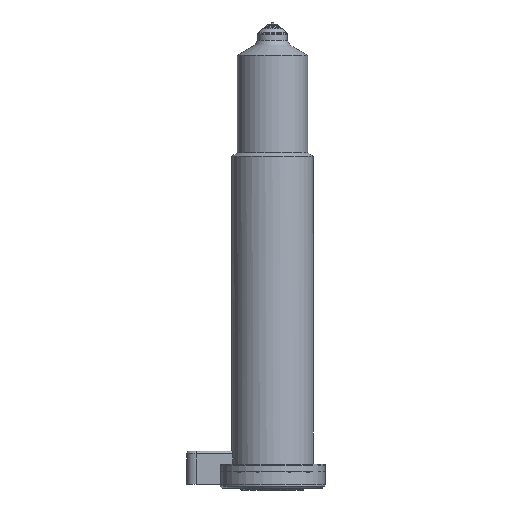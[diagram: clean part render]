
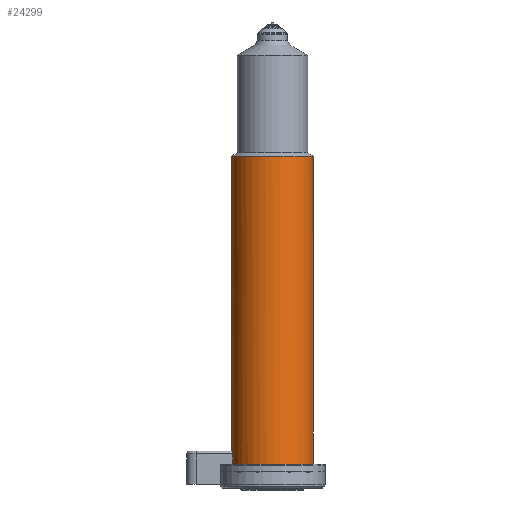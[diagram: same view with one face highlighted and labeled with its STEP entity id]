
A CAD part, front view. The second image highlights one B-rep face of the part: STEP entity #24299.
In plain terms, the highlighted cylindrical face has radius 44 mm (diameter 88 mm), a partial arc.
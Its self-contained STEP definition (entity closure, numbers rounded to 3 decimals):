
#5818 = B_SPLINE_CURVE_WITH_KNOTS ( 'NONE', 3,
 ( #20266, #20335, #20250, #20270, #19893, #20148, #20296, #19981, #20003, #19934, #19955, #20256, #20186, #20042, #20193, #20196, #19872, #20131 ),
 .UNSPECIFIED., .F., .F.,
 ( 4, 2, 2, 2, 2, 2, 2, 2, 4 ),
 ( 0.009, 0.01, 0.011, 0.011, 0.012, 0.012, 0.013, 0.014, 0.014 ),
 .UNSPECIFIED. ) ;
#6910 = CARTESIAN_POINT ( 'NONE',  ( -42.849, -10., 39. ) ) ;
#6920 = CARTESIAN_POINT ( 'NONE',  ( 44., 0., 361. ) ) ;
#6926 = CARTESIAN_POINT ( 'NONE',  ( -44., 0., 42. ) ) ;
#7000 = CARTESIAN_POINT ( 'NONE',  ( -42.849, -10., 28. ) ) ;
#7051 = CARTESIAN_POINT ( 'NONE',  ( -43.44, -7., 42. ) ) ;
#7066 = CARTESIAN_POINT ( 'NONE',  ( -44., 0., 361. ) ) ;
#7072 = CARTESIAN_POINT ( 'NONE',  ( 44., 0., 28. ) ) ;
#7259 = EDGE_LOOP ( 'NONE', ( #8968, #8970, #8973, #8975, #8977, #8979, #8981 ) ) ;
#8968 = ORIENTED_EDGE ( 'NONE', *, *, #27250, .F. ) ;
#8970 = ORIENTED_EDGE ( 'NONE', *, *, #27309, .T. ) ;
#8973 = ORIENTED_EDGE ( 'NONE', *, *, #27255, .T. ) ;
#8975 = ORIENTED_EDGE ( 'NONE', *, *, #27300, .F. ) ;
#8977 = ORIENTED_EDGE ( 'NONE', *, *, #27265, .F. ) ;
#8979 = ORIENTED_EDGE ( 'NONE', *, *, #27261, .F. ) ;
#8981 = ORIENTED_EDGE ( 'NONE', *, *, #27272, .T. ) ;
#12387 = AXIS2_PLACEMENT_3D ( 'NONE', #37272, #37221, #37192 ) ;
#15050 = CYLINDRICAL_SURFACE ( 'NONE', #12387, 44. ) ;
#15077 = FACE_OUTER_BOUND ( 'NONE', #7259, .T. ) ;
#19852 = DIRECTION ( 'NONE',  ( 0., 0., 1. ) ) ;
#19872 = CARTESIAN_POINT ( 'NONE',  ( -43.408, -7.197, 42. ) ) ;
#19893 = CARTESIAN_POINT ( 'NONE',  ( -42.885, -9.844, 39.975 ) ) ;
#19897 = DIRECTION ( 'NONE',  ( -1., 0., 0. ) ) ;
#19934 = CARTESIAN_POINT ( 'NONE',  ( -43.075, -8.975, 41.266 ) ) ;
#19948 = DIRECTION ( 'NONE',  ( -1., 0., 0. ) ) ;
#19955 = CARTESIAN_POINT ( 'NONE',  ( -43.107, -8.821, 41.392 ) ) ;
#19959 = CARTESIAN_POINT ( 'NONE',  ( 0., 0., 361. ) ) ;
#19981 = CARTESIAN_POINT ( 'NONE',  ( -42.989, -9.378, 40.84 ) ) ;
#20003 = CARTESIAN_POINT ( 'NONE',  ( -43.016, -9.253, 40.991 ) ) ;
#20041 = DIRECTION ( 'NONE',  ( 0., 0., -1. ) ) ;
#20042 = CARTESIAN_POINT ( 'NONE',  ( -43.274, -7.962, 41.848 ) ) ;
#20057 = CARTESIAN_POINT ( 'NONE',  ( 0., 0., 42. ) ) ;
#20071 = DIRECTION ( 'NONE',  ( 0., 0., -1. ) ) ;
#20086 = DIRECTION ( 'NONE',  ( 0., 0., -1. ) ) ;
#20115 = CARTESIAN_POINT ( 'NONE',  ( -44., 0., 0. ) ) ;
#20131 = CARTESIAN_POINT ( 'NONE',  ( -43.44, -7., 42. ) ) ;
#20146 = CARTESIAN_POINT ( 'NONE',  ( 0., 0., 28. ) ) ;
#20148 = CARTESIAN_POINT ( 'NONE',  ( -42.919, -9.693, 40.337 ) ) ;
#20186 = CARTESIAN_POINT ( 'NONE',  ( -43.206, -8.324, 41.699 ) ) ;
#20193 = CARTESIAN_POINT ( 'NONE',  ( -43.308, -7.773, 41.905 ) ) ;
#20196 = CARTESIAN_POINT ( 'NONE',  ( -43.375, -7.392, 41.981 ) ) ;
#20223 = CARTESIAN_POINT ( 'NONE',  ( 44., 0., 0. ) ) ;
#20226 = DIRECTION ( 'NONE',  ( 0., 0., -1. ) ) ;
#20250 = CARTESIAN_POINT ( 'NONE',  ( -42.853, -9.981, 39.394 ) ) ;
#20256 = CARTESIAN_POINT ( 'NONE',  ( -43.172, -8.496, 41.608 ) ) ;
#20266 = CARTESIAN_POINT ( 'NONE',  ( -42.849, -10., 39. ) ) ;
#20270 = CARTESIAN_POINT ( 'NONE',  ( -42.871, -9.903, 39.784 ) ) ;
#20289 = DIRECTION ( 'NONE',  ( 1., 0., 0. ) ) ;
#20296 = CARTESIAN_POINT ( 'NONE',  ( -42.94, -9.598, 40.513 ) ) ;
#20314 = CARTESIAN_POINT ( 'NONE',  ( -42.849, -10., 0. ) ) ;
#20323 = DIRECTION ( 'NONE',  ( 0., 0., 1. ) ) ;
#20335 = CARTESIAN_POINT ( 'NONE',  ( -42.849, -10., 39.198 ) ) ;
#24299 = ADVANCED_FACE ( 'NONE', ( #15077 ), #15050, .T. ) ;
#25166 = VERTEX_POINT ( 'NONE', #7072 ) ;
#25172 = VERTEX_POINT ( 'NONE', #7066 ) ;
#25182 = VERTEX_POINT ( 'NONE', #7051 ) ;
#25231 = VERTEX_POINT ( 'NONE', #7000 ) ;
#25305 = VERTEX_POINT ( 'NONE', #6926 ) ;
#25311 = VERTEX_POINT ( 'NONE', #6920 ) ;
#25321 = VERTEX_POINT ( 'NONE', #6910 ) ;
#26137 = AXIS2_PLACEMENT_3D ( 'NONE', #20146, #19852, #19897 ) ;
#26163 = AXIS2_PLACEMENT_3D ( 'NONE', #20057, #20071, #20289 ) ;
#26167 = AXIS2_PLACEMENT_3D ( 'NONE', #19959, #20086, #19948 ) ;
#27250 = EDGE_CURVE ( 'NONE', #25311, #25166, #34318, .T. ) ;
#27255 = EDGE_CURVE ( 'NONE', #25172, #25305, #34309, .T. ) ;
#27261 = EDGE_CURVE ( 'NONE', #25231, #25321, #34295, .T. ) ;
#27265 = EDGE_CURVE ( 'NONE', #25321, #25182, #5818, .T. ) ;
#27272 = EDGE_CURVE ( 'NONE', #25231, #25166, #34279, .T. ) ;
#27300 = EDGE_CURVE ( 'NONE', #25182, #25305, #34218, .T. ) ;
#27309 = EDGE_CURVE ( 'NONE', #25311, #25172, #34200, .T. ) ;
#34200 = CIRCLE ( 'NONE', #26167, 44. ) ;
#34218 = CIRCLE ( 'NONE', #26163, 44. ) ;
#34279 = CIRCLE ( 'NONE', #26137, 44. ) ;
#34294 = VECTOR ( 'NONE', #20323, 1000. ) ;
#34295 = LINE ( 'NONE', #20314, #34294 ) ;
#34306 = VECTOR ( 'NONE', #20041, 1000. ) ;
#34309 = LINE ( 'NONE', #20115, #34306 ) ;
#34317 = VECTOR ( 'NONE', #20226, 1000. ) ;
#34318 = LINE ( 'NONE', #20223, #34317 ) ;
#37192 = DIRECTION ( 'NONE',  ( -1., 0., 0. ) ) ;
#37221 = DIRECTION ( 'NONE',  ( 0., 0., -1. ) ) ;
#37272 = CARTESIAN_POINT ( 'NONE',  ( 0., 0., 0. ) ) ;
